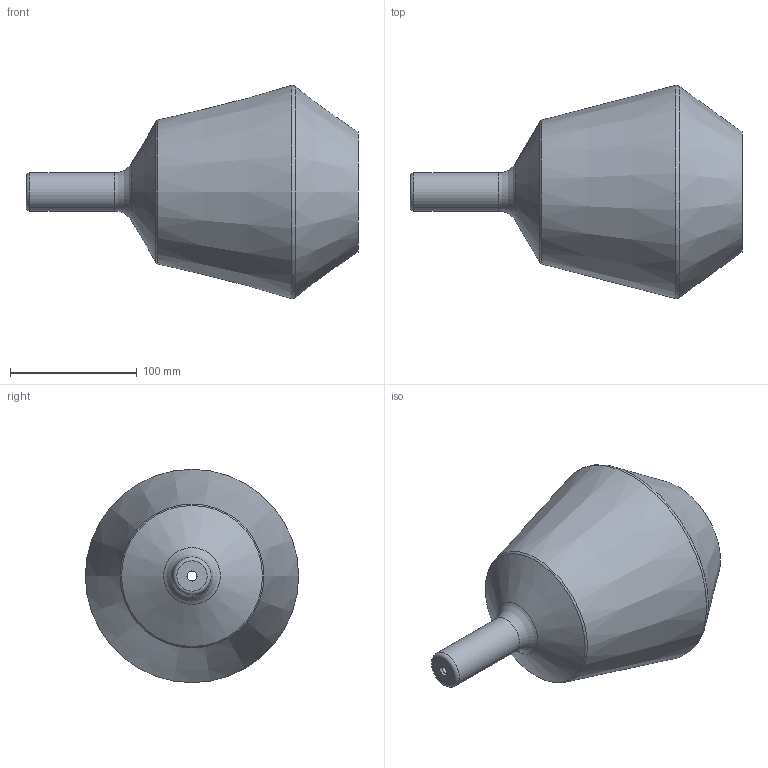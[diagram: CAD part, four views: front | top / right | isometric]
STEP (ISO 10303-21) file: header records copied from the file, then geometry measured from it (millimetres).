
FILE_DESCRIPTION(/* description */ (''),/* implementation_level */ '2;1');
FILE_NAME(/* name */ 'C:\Users\STEFANO\Desktop\3D SEM\1602-24 - MOM SOSPENSIONE FATTY F.E\Vetro SEMP SOSP.stp',/* time_stamp */ '2019-09-12T15:40:13+02:00',/* author */ ('STEFANO'),/* organization */ (''),/* preprocessor_version */ 'ST-DEVELOPER v17',/* originating_system */ 'Autodesk Inventor 2019',/* authorisation */ '');
FILE_SCHEMA (('AUTOMOTIVE_DESIGN { 1 0 10303 214 3 1 1 }'));
Length unit declared in the file: millimetre
Products named in the file (1): Vetro SEMP
Bounding box: 262.01 x 168.36 x 168.36 mm (x, y, z)
Volume: 327661.3 mm3; surface area: 262231.2 mm2
Topology: 1 solids, 1 shells, 26 faces, 87 edges, 65 vertices
Faces by surface type: torus 10, cone 8, cylinder 4, plane 4
Full cylindrical faces by diameter (mm): 8 x2, 25 x1, 30 x1
Entity records: 1071 total; most frequent: DIRECTION 216, CARTESIAN_POINT 179, ORIENTED_EDGE 174, AXIS2_PLACEMENT_3D 102, EDGE_CURVE 87, CIRCLE 75, VERTEX_POINT 65, EDGE_LOOP 30
